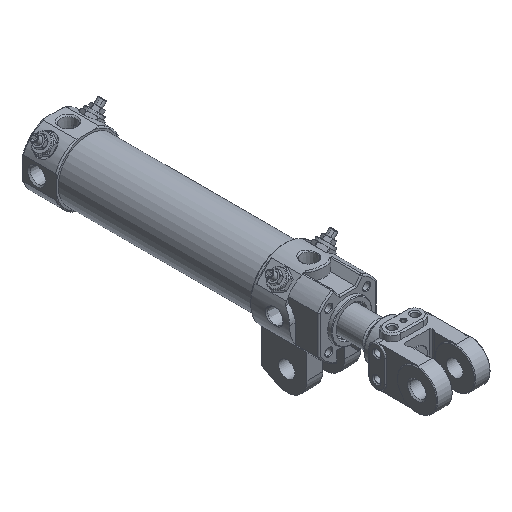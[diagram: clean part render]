
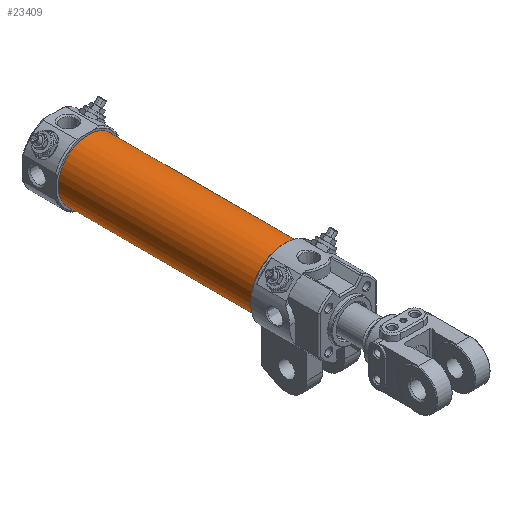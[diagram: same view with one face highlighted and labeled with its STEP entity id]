
A CAD part, isometric view. The second image highlights one B-rep face of the part: STEP entity #23409.
In plain terms, the highlighted cylindrical face has radius 22.5 mm (diameter 45 mm), a full revolution.
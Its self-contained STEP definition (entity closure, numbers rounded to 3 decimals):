
#18088=CARTESIAN_POINT('',(22.5,196.5,0.));
#18089=VERTEX_POINT('',#18088);
#18090=CARTESIAN_POINT('',(0.0,196.5,0.0));
#18091=DIRECTION('',(0.0,-1.0,0.0));
#18092=DIRECTION('',(-1.0,0.0,0.0));
#18093=AXIS2_PLACEMENT_3D('',#18090,#18091,#18092);
#18094=CIRCLE('',#18093,22.5);
#18095=EDGE_CURVE('',#18089,#18089,#18094,.T.);
#23386=CARTESIAN_POINT('',(22.5,50.5,0.));
#23387=VERTEX_POINT('',#23386);
#23388=CARTESIAN_POINT('',(0.0,50.5,0.0));
#23389=DIRECTION('',(0.0,-1.0,0.0));
#23390=DIRECTION('',(-1.0,0.0,0.0));
#23391=AXIS2_PLACEMENT_3D('',#23388,#23389,#23390);
#23392=CIRCLE('',#23391,22.5);
#23393=EDGE_CURVE('',#23387,#23387,#23392,.T.);
#23398=CARTESIAN_POINT('',(0.0,50.5,0.0));
#23399=DIRECTION('',(0.0,1.0,0.0));
#23400=DIRECTION('',(-1.0,0.0,0.0));
#23401=AXIS2_PLACEMENT_3D('',#23398,#23399,#23400);
#23402=CYLINDRICAL_SURFACE('',#23401,22.5);
#23403=ORIENTED_EDGE('',*,*,#18095,.T.);
#23404=EDGE_LOOP('',(#23403));
#23405=FACE_OUTER_BOUND('',#23404,.T.);
#23406=ORIENTED_EDGE('',*,*,#23393,.F.);
#23407=EDGE_LOOP('',(#23406));
#23408=FACE_BOUND('',#23407,.T.);
#23409=ADVANCED_FACE('',(#23405,#23408),#23402,.T.);
